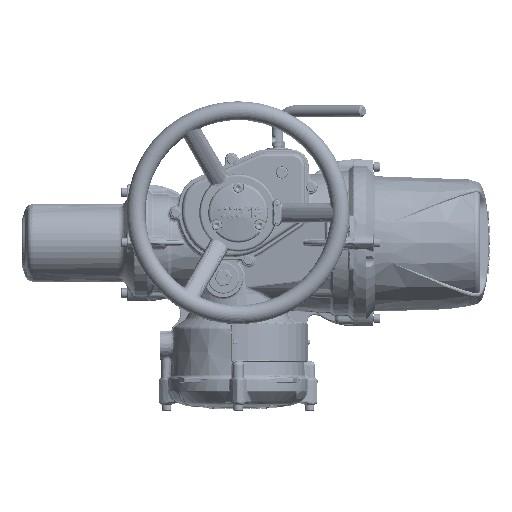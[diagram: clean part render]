
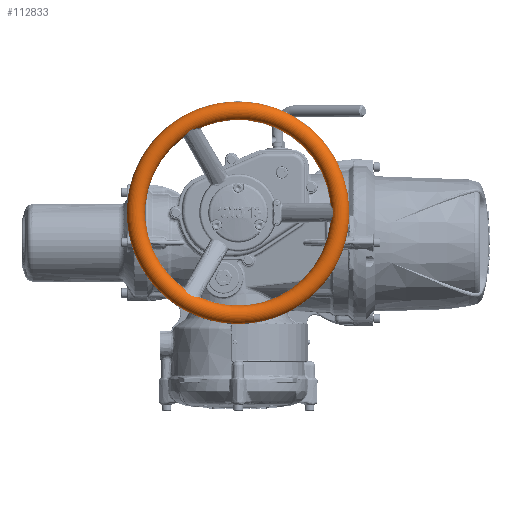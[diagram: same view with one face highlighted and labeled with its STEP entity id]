
A CAD part, top view. The second image highlights one B-rep face of the part: STEP entity #112833.
In plain terms, the highlighted toroidal (fillet/blend) face has major radius 140 mm and minor radius 12.5 mm.
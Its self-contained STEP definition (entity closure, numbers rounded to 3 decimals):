
#3363=TOROIDAL_SURFACE('',#118926,140.,12.5);
#12551=B_SPLINE_CURVE_WITH_KNOTS('',3,(#191911,#191912,#191913,#191914,
#191915,#191916,#191917),.UNSPECIFIED.,.F.,.F.,(4,1,1,1,4),(0.,0.004,
0.007,0.011,0.014),
 .UNSPECIFIED.);
#12552=B_SPLINE_CURVE_WITH_KNOTS('',3,(#191919,#191920,#191921,#191922),
 .UNSPECIFIED.,.F.,.F.,(4,4),(0.,0.006),.UNSPECIFIED.);
#12553=B_SPLINE_CURVE_WITH_KNOTS('',3,(#191924,#191925,#191926,#191927,
#191928,#191929,#191930),.UNSPECIFIED.,.F.,.F.,(4,1,1,1,4),(0.,0.004,
0.007,0.011,0.014),.UNSPECIFIED.);
#12554=B_SPLINE_CURVE_WITH_KNOTS('',3,(#191931,#191932,#191933,#191934,
#191935,#191936,#191937),.UNSPECIFIED.,.F.,.F.,(4,1,1,1,4),(0.,0.004,
0.007,0.011,0.014),
 .UNSPECIFIED.);
#12555=B_SPLINE_CURVE_WITH_KNOTS('',3,(#191939,#191940,#191941,#191942),
 .UNSPECIFIED.,.F.,.F.,(4,4),(0.,0.006),.UNSPECIFIED.);
#12556=B_SPLINE_CURVE_WITH_KNOTS('',3,(#191944,#191945,#191946,#191947,
#191948,#191949,#191950),.UNSPECIFIED.,.F.,.F.,(4,1,1,1,4),(0.,0.004,
0.007,0.011,0.014),.UNSPECIFIED.);
#12557=B_SPLINE_CURVE_WITH_KNOTS('',3,(#191951,#191952,#191953,#191954,
#191955,#191956,#191957),.UNSPECIFIED.,.F.,.F.,(4,1,1,1,4),(0.,0.004,
0.007,0.011,0.014),
 .UNSPECIFIED.);
#12558=B_SPLINE_CURVE_WITH_KNOTS('',3,(#191959,#191960,#191961,#191962),
 .UNSPECIFIED.,.F.,.F.,(4,4),(0.,0.006),
 .UNSPECIFIED.);
#12559=B_SPLINE_CURVE_WITH_KNOTS('',3,(#191964,#191965,#191966,#191967,
#191968,#191969,#191970),.UNSPECIFIED.,.F.,.F.,(4,1,1,1,4),(0.,0.004,
0.007,0.011,0.014),
 .UNSPECIFIED.);
#24148=ORIENTED_EDGE('',*,*,#44561,.T.);
#24149=ORIENTED_EDGE('',*,*,#44562,.T.);
#24150=ORIENTED_EDGE('',*,*,#44563,.T.);
#24151=ORIENTED_EDGE('',*,*,#44405,.F.);
#24152=ORIENTED_EDGE('',*,*,#44564,.T.);
#24153=ORIENTED_EDGE('',*,*,#44565,.T.);
#24154=ORIENTED_EDGE('',*,*,#44566,.T.);
#24155=ORIENTED_EDGE('',*,*,#44424,.F.);
#24156=ORIENTED_EDGE('',*,*,#44567,.T.);
#24157=ORIENTED_EDGE('',*,*,#44568,.T.);
#24158=ORIENTED_EDGE('',*,*,#44569,.T.);
#24159=ORIENTED_EDGE('',*,*,#44411,.F.);
#24160=ORIENTED_EDGE('',*,*,#44469,.T.);
#44405=EDGE_CURVE('',#54955,#54956,#61346,.T.);
#44411=EDGE_CURVE('',#54961,#54962,#61348,.T.);
#44424=EDGE_CURVE('',#54973,#54974,#61351,.T.);
#44469=EDGE_CURVE('',#55008,#55008,#61356,.T.);
#44561=EDGE_CURVE('',#54961,#55073,#12551,.T.);
#44562=EDGE_CURVE('',#55073,#55074,#12552,.T.);
#44563=EDGE_CURVE('',#55074,#54956,#12553,.T.);
#44564=EDGE_CURVE('',#54955,#55075,#12554,.T.);
#44565=EDGE_CURVE('',#55075,#55076,#12555,.T.);
#44566=EDGE_CURVE('',#55076,#54974,#12556,.T.);
#44567=EDGE_CURVE('',#54973,#55077,#12557,.T.);
#44568=EDGE_CURVE('',#55077,#55078,#12558,.T.);
#44569=EDGE_CURVE('',#55078,#54962,#12559,.T.);
#54955=VERTEX_POINT('',#190652);
#54956=VERTEX_POINT('',#190653);
#54961=VERTEX_POINT('',#190679);
#54962=VERTEX_POINT('',#190680);
#54973=VERTEX_POINT('',#190741);
#54974=VERTEX_POINT('',#190742);
#55008=VERTEX_POINT('',#191062);
#55073=VERTEX_POINT('',#191918);
#55074=VERTEX_POINT('',#191923);
#55075=VERTEX_POINT('',#191938);
#55076=VERTEX_POINT('',#191943);
#55077=VERTEX_POINT('',#191958);
#55078=VERTEX_POINT('',#191963);
#61346=CIRCLE('',#118879,127.508);
#61348=CIRCLE('',#118882,127.508);
#61351=CIRCLE('',#118887,127.508);
#61356=CIRCLE('',#118902,152.492);
#65945=EDGE_LOOP('',(#24148,#24149,#24150,#24151,#24152,#24153,#24154,#24155,
#24156,#24157,#24158,#24159));
#65946=EDGE_LOOP('',(#24160));
#71859=FACE_BOUND('',#65945,.T.);
#71860=FACE_BOUND('',#65946,.T.);
#112833=ADVANCED_FACE('',(#71859,#71860),#3363,.T.);
#118879=AXIS2_PLACEMENT_3D('',#190651,#129777,#129778);
#118882=AXIS2_PLACEMENT_3D('',#190678,#129783,#129784);
#118887=AXIS2_PLACEMENT_3D('',#190740,#129793,#129794);
#118902=AXIS2_PLACEMENT_3D('',#191061,#129823,#129824);
#118926=AXIS2_PLACEMENT_3D('',#191910,#129873,#129874);
#129777=DIRECTION('',(0.,0.,1.));
#129778=DIRECTION('',(0.,1.,0.));
#129783=DIRECTION('',(0.,0.,1.));
#129784=DIRECTION('',(0.,1.,0.));
#129793=DIRECTION('',(0.,0.,1.));
#129794=DIRECTION('',(0.,1.,0.));
#129823=DIRECTION('',(0.,0.,1.));
#129824=DIRECTION('',(0.,1.,0.));
#129873=DIRECTION('',(0.,0.,1.));
#129874=DIRECTION('',(0.,1.,0.));
#190651=CARTESIAN_POINT('',(0.,0.,
92.936));
#190652=CARTESIAN_POINT('',(-102.887,-75.316,92.936));
#190653=CARTESIAN_POINT('',(102.887,-75.316,92.936));
#190678=CARTESIAN_POINT('',(0.,0.,
92.936));
#190679=CARTESIAN_POINT('',(116.669,-51.445,92.936));
#190680=CARTESIAN_POINT('',(13.782,126.761,92.936));
#190740=CARTESIAN_POINT('',(0.,0.,
92.936));
#190741=CARTESIAN_POINT('',(-13.782,126.761,92.936));
#190742=CARTESIAN_POINT('',(-116.669,-51.445,92.936));
#191061=CARTESIAN_POINT('',(0.,0.,
92.936));
#191062=CARTESIAN_POINT('',(0.,152.492,92.936));
#191910=CARTESIAN_POINT('',(0.,0.,
92.5));
#191911=CARTESIAN_POINT('',(116.669,-51.445,92.936));
#191912=CARTESIAN_POINT('',(116.43,-52.071,93.913));
#191913=CARTESIAN_POINT('',(116.062,-53.574,95.664));
#191914=CARTESIAN_POINT('',(115.677,-56.313,97.884));
#191915=CARTESIAN_POINT('',(115.339,-59.329,99.649));
#191916=CARTESIAN_POINT('',(114.858,-61.572,100.403));
#191917=CARTESIAN_POINT('',(114.312,-62.627,100.438));
#191918=CARTESIAN_POINT('',(114.312,-62.627,100.438));
#191919=CARTESIAN_POINT('',(114.312,-62.627,100.438));
#191920=CARTESIAN_POINT('',(113.418,-64.357,100.494));
#191921=CARTESIAN_POINT('',(112.444,-66.044,100.494));
#191922=CARTESIAN_POINT('',(111.393,-67.684,100.438));
#191923=CARTESIAN_POINT('',(111.393,-67.684,100.438));
#191924=CARTESIAN_POINT('',(111.393,-67.684,100.438));
#191925=CARTESIAN_POINT('',(110.749,-68.688,100.403));
#191926=CARTESIAN_POINT('',(109.053,-70.218,99.652));
#191927=CARTESIAN_POINT('',(106.596,-72.031,97.873));
#191928=CARTESIAN_POINT('',(104.449,-73.708,95.69));
#191929=CARTESIAN_POINT('',(103.31,-74.795,93.913));
#191930=CARTESIAN_POINT('',(102.887,-75.316,92.936));
#191931=CARTESIAN_POINT('',(-102.887,-75.316,92.936));
#191932=CARTESIAN_POINT('',(-103.31,-74.796,93.913));
#191933=CARTESIAN_POINT('',(-104.427,-73.726,95.664));
#191934=CARTESIAN_POINT('',(-106.607,-72.023,97.884));
#191935=CARTESIAN_POINT('',(-109.05,-70.222,99.649));
#191936=CARTESIAN_POINT('',(-110.752,-68.684,100.403));
#191937=CARTESIAN_POINT('',(-111.393,-67.684,100.438));
#191938=CARTESIAN_POINT('',(-111.393,-67.684,100.438));
#191939=CARTESIAN_POINT('',(-111.393,-67.684,100.438));
#191940=CARTESIAN_POINT('',(-112.444,-66.044,100.494));
#191941=CARTESIAN_POINT('',(-113.418,-64.357,100.494));
#191942=CARTESIAN_POINT('',(-114.312,-62.627,100.438));
#191943=CARTESIAN_POINT('',(-114.312,-62.627,100.438));
#191944=CARTESIAN_POINT('',(-114.312,-62.627,100.438));
#191945=CARTESIAN_POINT('',(-114.86,-61.567,100.403));
#191946=CARTESIAN_POINT('',(-115.337,-59.334,99.652));
#191947=CARTESIAN_POINT('',(-115.679,-56.299,97.873));
#191948=CARTESIAN_POINT('',(-116.057,-53.602,95.69));
#191949=CARTESIAN_POINT('',(-116.43,-52.071,93.913));
#191950=CARTESIAN_POINT('',(-116.669,-51.445,92.936));
#191951=CARTESIAN_POINT('',(-13.782,126.761,92.936));
#191952=CARTESIAN_POINT('',(-13.12,126.867,93.913));
#191953=CARTESIAN_POINT('',(-11.635,127.3,95.664));
#191954=CARTESIAN_POINT('',(-9.07,128.335,97.884));
#191955=CARTESIAN_POINT('',(-6.289,129.551,99.649));
#191956=CARTESIAN_POINT('',(-4.106,130.256,100.403));
#191957=CARTESIAN_POINT('',(-2.919,130.311,100.438));
#191958=CARTESIAN_POINT('',(-2.919,130.311,100.438));
#191959=CARTESIAN_POINT('',(-2.919,130.311,100.438));
#191960=CARTESIAN_POINT('',(-0.974,130.401,100.494));
#191961=CARTESIAN_POINT('',(0.974,130.401,100.494));
#191962=CARTESIAN_POINT('',(2.919,130.311,100.438));
#191963=CARTESIAN_POINT('',(2.919,130.311,100.438));
#191964=CARTESIAN_POINT('',(2.919,130.311,100.438));
#191965=CARTESIAN_POINT('',(4.111,130.256,100.403));
#191966=CARTESIAN_POINT('',(6.284,129.552,99.652));
#191967=CARTESIAN_POINT('',(9.083,128.331,97.873));
#191968=CARTESIAN_POINT('',(11.608,127.309,95.69));
#191969=CARTESIAN_POINT('',(13.12,126.867,93.913));
#191970=CARTESIAN_POINT('',(13.782,126.761,92.936));
